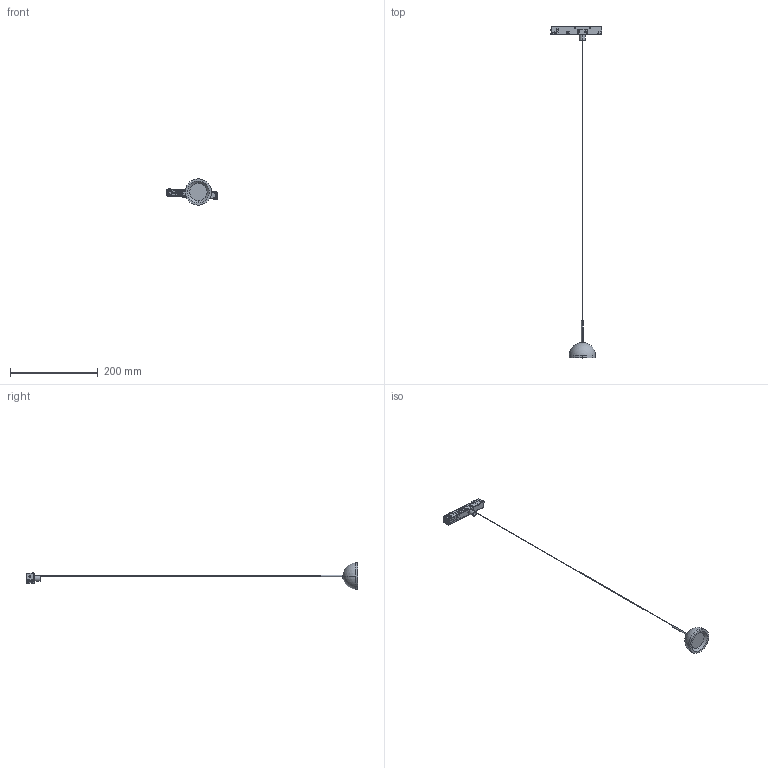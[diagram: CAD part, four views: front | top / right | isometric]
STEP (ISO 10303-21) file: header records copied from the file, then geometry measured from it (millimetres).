
FILE_DESCRIPTION (( 'STEP AP214' ), '1' );
FILE_NAME ('HALF.STEP', '2026-04-01T13:56:30', ( '' ), ( '' ), 'SwSTEP 2.0', 'SolidWorks 2023', '' );
FILE_SCHEMA (( 'AUTOMOTIVE_DESIGN' ));
Length unit declared in the file: millimetre
Products named in the file (1): HALF
Bounding box: 116.69 x 758 x 60 mm (x, y, z)
Surface area: 40328.5 mm2 (no closed solid volume)
Topology: 0 solids, 29 shells, 1566 faces, 4367 edges, 2847 vertices
Faces by surface type: plane 1216, cylinder 223, bspline 77, cone 42, torus 6, sphere 2
Entity records: 54909 total; most frequent: CARTESIAN_POINT 17296, ORIENTED_EDGE 8690, DIRECTION 6269, EDGE_CURVE 4348, VERTEX_POINT 2847, VECTOR 2577, LINE 2577, AXIS2_PLACEMENT_3D 1846
